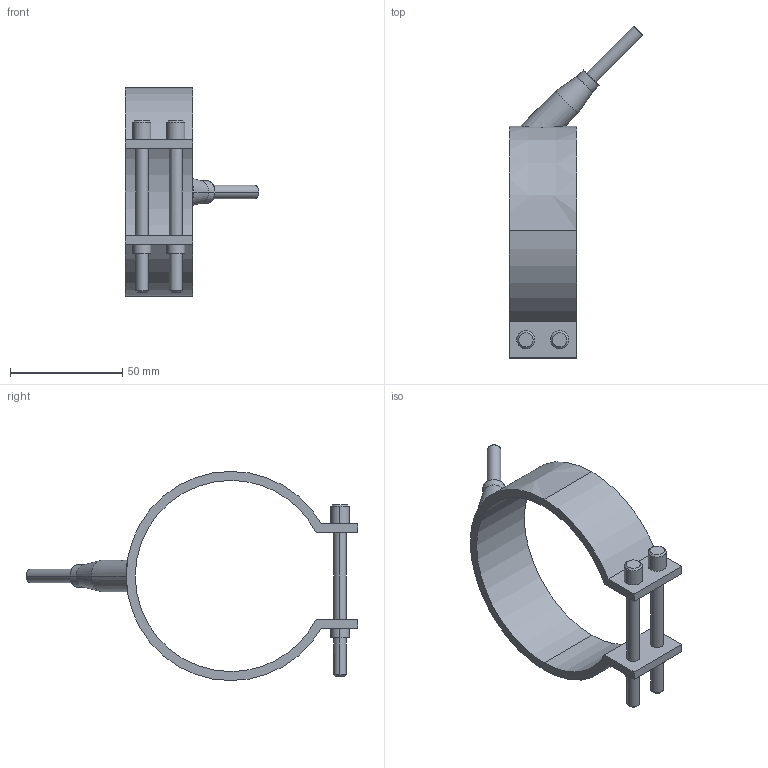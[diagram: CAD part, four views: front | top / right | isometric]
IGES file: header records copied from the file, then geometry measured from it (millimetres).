
Start section: START RECORD GO HERE.
Global section: file name: 29085030.igs; native system: DASSAULT SYSTEMES CATIA V5 R20 - www.3ds.com; preprocessor: CATIA Version 5 Release 20 ; author: Utente; organization: NB04-ASUS; date: 20210329.200613; units: millimetre
Bounding box: 59.55 x 147.55 x 93 mm (x, y, z)
Surface area: 22749 mm2 (no closed solid volume)
Topology: 0 solids, 0 shells, 54 faces, 246 edges, 246 vertices
Faces by surface type: revolution 38, plane 16
